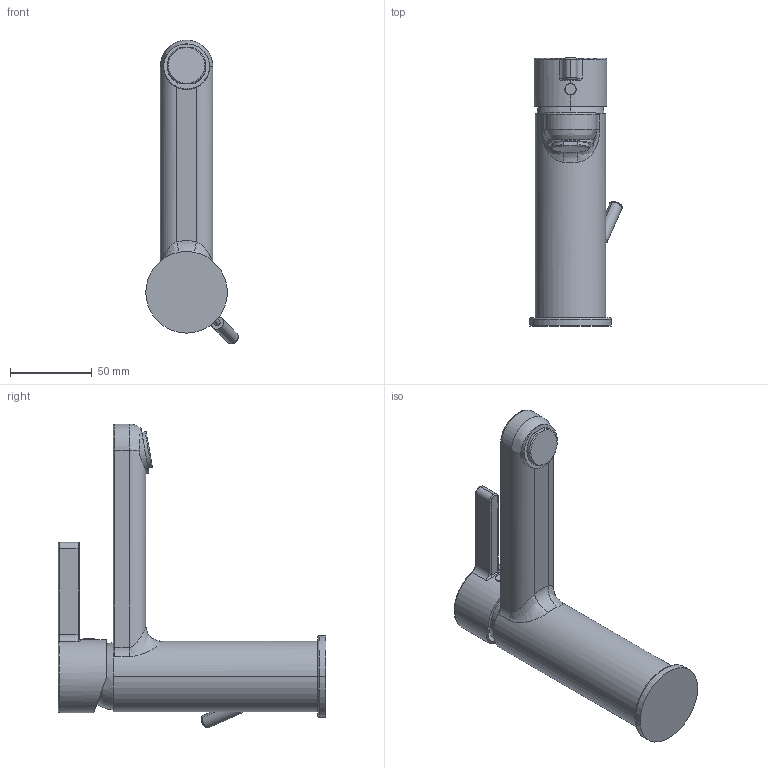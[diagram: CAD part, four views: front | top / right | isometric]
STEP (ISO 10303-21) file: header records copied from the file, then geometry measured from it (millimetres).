
FILE_DESCRIPTION((''),'2;1');
FILE_NAME('FIT-WB-M-WASTE','2025-07-17T10:41:25',('WB441'),(''),'CREO PARAMETRIC BY PTC INC, 2024133','CREO PARAMETRIC BY PTC INC, 2024133','');
FILE_SCHEMA(('CONFIG_CONTROL_DESIGN'));
Length unit declared in the file: millimetre
Products named in the file (1): FIT-WB-M-WASTE
Bounding box: 56.41 x 163.55 x 185.51 mm (x, y, z)
Volume: 252154 mm3; surface area: 60102.1 mm2
Topology: 2 solids, 2 shells, 229 faces, 581 edges, 367 vertices
Faces by surface type: plane 84, cylinder 74, bspline 28, torus 27, cone 16
Entity records: 16011 total; most frequent: CARTESIAN_POINT 10618, ORIENTED_EDGE 1162, DIRECTION 1077, EDGE_CURVE 581, AXIS2_PLACEMENT_3D 420, VERTEX_POINT 367, EDGE_LOOP 244, VECTOR 237
